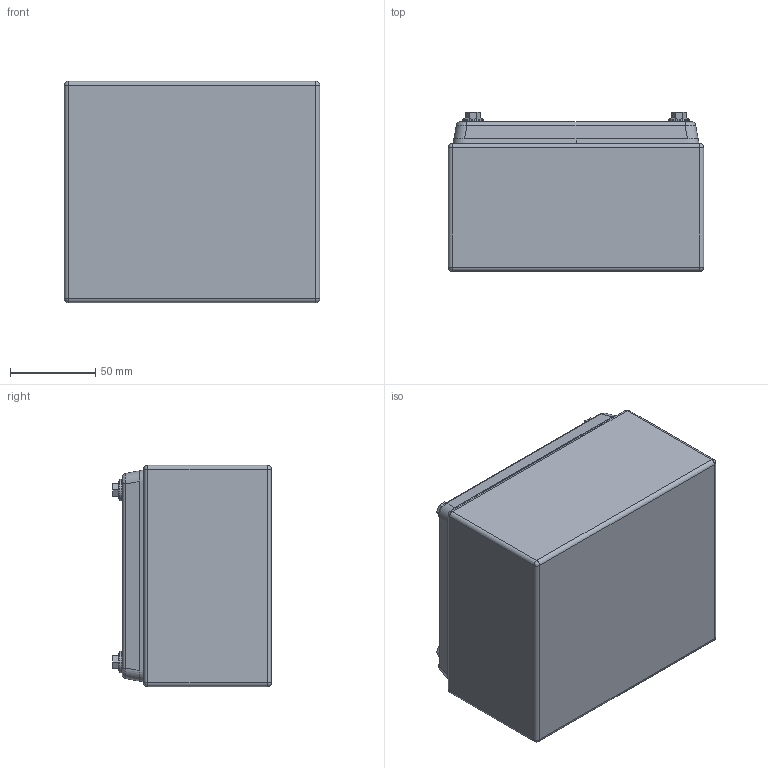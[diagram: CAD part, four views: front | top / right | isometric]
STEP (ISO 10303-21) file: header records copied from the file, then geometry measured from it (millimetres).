
FILE_DESCRIPTION (( 'STEP AP203' ), '1' );
FILE_NAME ('PEH04-316A.STEP', '2021-02-23T15:22:36', ( '' ), ( '' ), 'SwSTEP 2.0', 'SolidWorks 2020', '' );
FILE_SCHEMA (( 'CONFIG_CONTROL_DESIGN' ));
Length unit declared in the file: millimetre
Products named in the file (1): PEH04-316A
Bounding box: 150 x 93.3 x 130 mm (x, y, z)
Volume: 163188.5 mm3; surface area: 209412.5 mm2
Topology: 18 solids, 18 shells, 488 faces, 1204 edges, 778 vertices
Faces by surface type: plane 258, cylinder 167, bspline 27, cone 20, sphere 16
Entity records: 16959 total; most frequent: CARTESIAN_POINT 5214, DIRECTION 2433, ORIENTED_EDGE 2376, EDGE_CURVE 1188, AXIS2_PLACEMENT_3D 845, VERTEX_POINT 778, VECTOR 743, LINE 743
